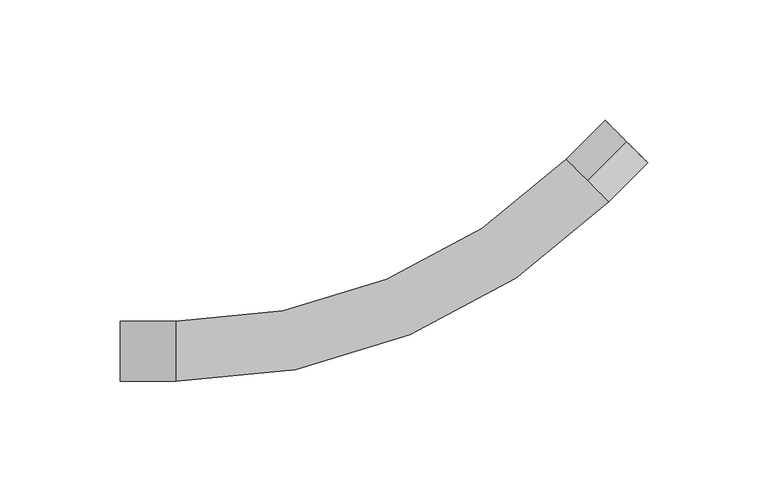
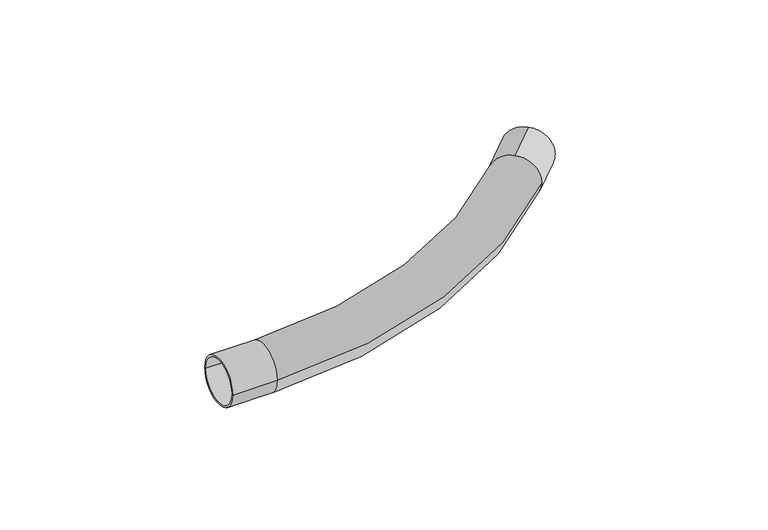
"""IFC4 building model written with IfcOpenShell, lengths in millimetres: cable carrier fitting geometry, КНС_МуфтаГибкаяТрубаТруба_IP64_DKC : Коробка."""

from ifc_helpers import new_model, si_unit, point, frame, origin, place, context, project, spatial, polyline, circle_curve, ellipse_curve, trimmed, source, transform, mapped, element, save
from ifc_brep_helpers import plane_surface, cylinder_surface, revolved_surface, advanced_brep


def cable_carrier_fitting_d665045f(model_context):
    return source(origin(), model_context, "Body", "AdvancedBrep", [
        advanced_brep(
        [(-123.2046866, -12.5, 0.0), (-123.2046866, 12.5, 0.0), (-123.2046866, -11.5, 0.0), (-123.2046866, 11.5, 0.0), (-100.2046866, -12.5, 0.0), (-100.2046866, 12.5, 0.0), (-100.2046866, -11.5, 0.0), (-100.2046866, 11.5, 0.0), (70.8554134, 70.8554134, 11.5), (70.8554134, 70.8554134, -11.5), (79.6942482, 62.0165787, 0.0), (70.8554134, 70.8554134, 12.5), (62.0165787, 79.6942482, 0.0), (70.8554134, 70.8554134, -12.5), (87.1188694, 87.1188694, -12.5), (87.1188694, 87.1188694, 12.5), (87.1188694, 87.1188694, -11.5), (87.1188694, 87.1188694, 11.5)],
        [
            (0, 1, circle_curve(frame((-123.2046866, 0.0, 0.0), z_axis=(-1.0, 0.0, 0.0), x_axis=(0.0, 1.0, 0.0)), 12.5)),
            (1, 0, circle_curve(frame((-123.2046866, 0.0, 0.0), z_axis=(-1.0, 0.0, 0.0), x_axis=(0.0, 1.0, 0.0)), 12.5)),
            (2, 3, circle_curve(frame((-123.2046866, 0.0, 0.0), z_axis=(1.0, 0.0, 0.0), x_axis=(0.0, 1.0, 0.0)), 11.5)),
            (3, 2, circle_curve(frame((-123.2046866, 0.0, 0.0), z_axis=(1.0, 0.0, 0.0), x_axis=(0.0, 1.0, 0.0)), 11.5)),
            (0, 4),
            (4, 5, circle_curve(frame((-100.2046866, 0.0, 0.0), z_axis=(-1.0, 0.0, 0.0), x_axis=(0.0, 1.0, 0.0)), 12.5)),
            (5, 1),
            (5, 4, circle_curve(frame((-100.2046866, 0.0, 0.0), z_axis=(-1.0, 0.0, 0.0), x_axis=(0.0, 1.0, 0.0)), 12.5)),
            (2, 6),
            (6, 7, circle_curve(frame((-100.2046866, 0.0, 0.0), z_axis=(1.0, 0.0, 0.0), x_axis=(0.0, 1.0, 0.0)), 11.5)),
            (7, 3),
            (7, 6, circle_curve(frame((-100.2046866, 0.0, 0.0), z_axis=(1.0, 0.0, 0.0), x_axis=(0.0, 1.0, 0.0)), 11.5)),
            (8, 9, circle_curve(frame((70.8554134, 70.8554134, 0.0), z_axis=(0.7071067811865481, 0.707106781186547, 0.0), x_axis=(0.0, 0.0, 1.0)), 11.5)),
            (9, 8, circle_curve(frame((70.8554134, 70.8554134, 0.0), z_axis=(0.7071067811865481, 0.707106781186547, 0.0), x_axis=(0.0, 0.0, 1.0)), 11.5)),
            (4, 10, circle_curve(frame((-100.2046866, 241.9155135, 0.0), z_axis=(0.0, 0.0, 1.0), x_axis=(0.7071067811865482, -0.7071067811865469, 0.0)), 254.4155135)),
            (10, 11, circle_curve(frame((70.8554134, 70.8554134, 0.0), z_axis=(-0.7071067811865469, -0.7071067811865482, 0.0), x_axis=(0.7071067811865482, -0.7071067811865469, 0.0)), 12.5)),
            (11, 12, circle_curve(frame((70.8554134, 70.8554134, 0.0), z_axis=(-0.7071067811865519, -0.7071067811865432, 0.0), x_axis=(0.7071067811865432, -0.7071067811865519, 0.0)), 12.5)),
            (12, 5, circle_curve(frame((-100.2046866, 241.9155135, 0.0), z_axis=(0.0, 0.0, -1.0), x_axis=(0.7071067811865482, -0.7071067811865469, 0.0)), 229.4155135)),
            (12, 13, circle_curve(frame((70.8554134, 70.8554134, 0.0), z_axis=(-0.7071067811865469, -0.7071067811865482, 0.0), x_axis=(0.7071067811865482, -0.7071067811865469, 0.0)), 12.5)),
            (13, 10, circle_curve(frame((70.8554134, 70.8554134, 0.0), z_axis=(-0.707106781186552, -0.7071067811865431, 0.0), x_axis=(0.7071067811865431, -0.707106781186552, 0.0)), 12.5)),
            (14, 15, circle_curve(frame((87.1188694, 87.1188694, 0.0), z_axis=(0.7071067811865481, 0.707106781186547, 0.0), x_axis=(0.0, 0.0, 1.0)), 12.5)),
            (15, 14, circle_curve(frame((87.1188694, 87.1188694, 0.0), z_axis=(0.7071067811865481, 0.707106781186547, 0.0), x_axis=(0.0, 0.0, 1.0)), 12.5)),
            (16, 17, circle_curve(frame((87.1188694, 87.1188694, 0.0), z_axis=(-0.7071067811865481, -0.707106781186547, 0.0), x_axis=(0.0, 0.0, 1.0)), 11.5)),
            (17, 16, circle_curve(frame((87.1188694, 87.1188694, 0.0), z_axis=(-0.7071067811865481, -0.707106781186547, 0.0), x_axis=(0.0, 0.0, 1.0)), 11.5)),
            (14, 13),
            (11, 15),
            (16, 9),
            (8, 17),
        ],
        [
            plane_surface(frame((-123.2046866, 0.0, 0.0), z_axis=(-1.0, 0.0, 0.0), x_axis=(0.0, 0.0, 1.0))),
            cylinder_surface(frame((-123.2046866, 0.0, 0.0), z_axis=(-1.0, 0.0, 0.0), x_axis=(0.0, 1.0, 0.0)), 12.5),
            revolved_surface(polyline([(-100.2046866, 11.5, 0.0), (-123.2046866, 11.5, 0.0)]), (-123.2046866, 0.0, 0.0), (1.0, 0.0, 0.0)),
            plane_surface(frame((70.8554134, 70.8554134, 0.0), z_axis=(0.7071067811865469, 0.7071067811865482, 0.0), x_axis=(0.0, 0.0, 1.0))),
            plane_surface(frame((-100.2046866, 0.0, 0.0), z_axis=(-1.0, 0.0, 0.0), x_axis=(0.0, 0.0, 1.0))),
            revolved_surface(trimmed(ellipse_curve(frame((70.8554134, 70.8554134, 0.0), z_axis=(0.7071067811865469, 0.7071067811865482, 0.0), x_axis=(0.7071067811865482, -0.7071067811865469, 0.0)), 12.5, 12.5), [point((62.0165787, 79.6942482, 0.0))], [point((79.6942482, 62.0165787, 0.0))], True, "CARTESIAN"), (-100.2046866, 241.9155135, 0.0), (0.0, 0.0, -1.0)),
            revolved_surface(trimmed(ellipse_curve(frame((70.8554134, 70.8554134, 0.0), z_axis=(0.7071067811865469, 0.7071067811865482, 0.0), x_axis=(0.7071067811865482, -0.7071067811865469, 0.0)), 12.5, 12.5), [point((79.6942482, 62.0165787, 0.0))], [point((62.0165787, 79.6942482, 0.0))], True, "CARTESIAN"), (-100.2046866, 241.9155135, 0.0), (0.0, 0.0, -1.0)),
            plane_surface(frame((87.1188694, 87.1188694, 12.5), z_axis=(0.7071067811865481, 0.707106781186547, 0.0), x_axis=(0.707106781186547, -0.7071067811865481, 0.0))),
            cylinder_surface(frame((70.8554134, 70.8554134, 0.0), z_axis=(0.7071067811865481, 0.707106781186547, 0.0), x_axis=(0.0, 0.0, 1.0)), 12.5),
            revolved_surface(polyline([(70.8554134, 70.8554134, 11.5), (87.11886940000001, 87.11886939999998, 11.5)]), (70.8554134, 70.8554134, 0.0), (-0.7071067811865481, -0.707106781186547, 0.0)),
        ],
        [
            (0, [[1, 2], [3, 4]]),
            (1, [[-1, 5, 6, 7]]),
            (1, [[-2, -7, 8, -5]]),
            (2, [[-3, 9, 10, 11]]),
            (2, [[-4, -11, 12, -9]]),
            (3, [[13, 14]]),
            (4, [[-10, -12]]),
            (5, [[15, 16, 17, 18, -6]]),
            (6, [[-15, -8, -18, 19, 20]]),
            (7, [[21, 22], [23, 24]]),
            (8, [[-21, 25, -19, -17, 26]]),
            (8, [[-22, -26, -16, -20, -25]]),
            (9, [[-23, 27, -13, 28]]),
            (9, [[-24, -28, -14, -27]]),
        ],
    ),
    ])


if __name__ == "__main__":
    model = new_model("IFC4")
    model_context = context("Model", 3, world=origin())
    ifc_project = project(units=[si_unit("LENGTHUNIT", "METRE", prefix="MILLI")], contexts=[model_context])
    site = spatial("IfcSite", under=ifc_project)
    building = spatial("IfcBuilding", under=site)
    placement = place(None, origin())
    cable_carrier_fitting_shape = cable_carrier_fitting_d665045f(model_context)
    element("IfcCableCarrierFitting", 1, ObjectType="КНС_МуфтаГибкаяТрубаТруба_IP64_DKC : Коробка", at=placement, inside=building, context=model_context, shape_type="MappedRepresentation", body=[
        mapped(cable_carrier_fitting_shape, transform((0.0, 0.0, 0.0), x_axis=(1.0, 0.0, 0.0), y_axis=(0.0, 1.0, 0.0), z_axis=(0.0, 0.0, 1.0))),
    ])
    save(model, "model.ifc")
